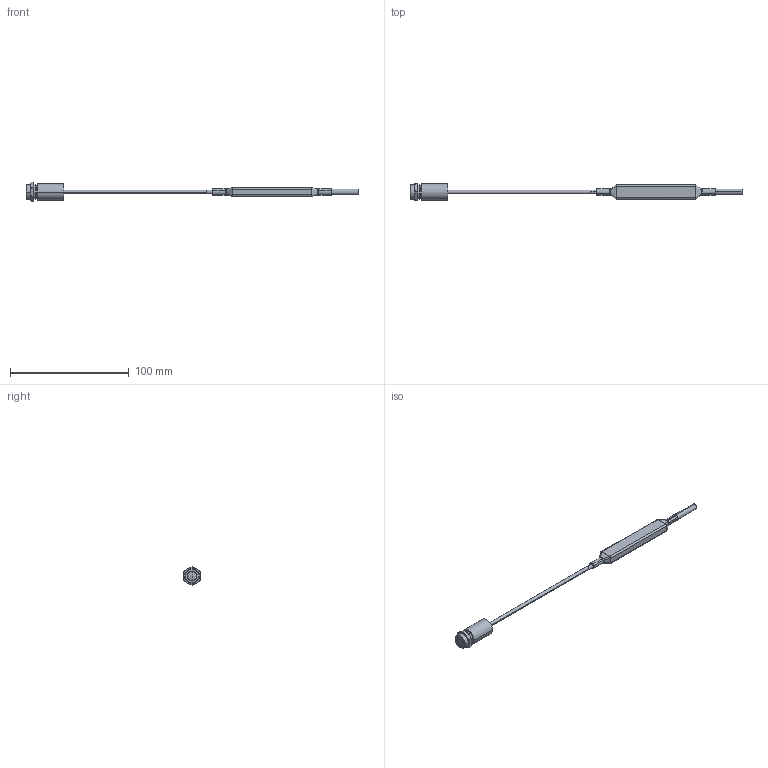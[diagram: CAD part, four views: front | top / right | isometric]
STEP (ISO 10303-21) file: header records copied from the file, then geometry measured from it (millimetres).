
FILE_DESCRIPTION((''),'2;1');
FILE_NAME('0000801676','2025-03-06T10:22:24',('11000913'),(''),'CREO PARAMETRIC BY PTC INC, 2022281','CREO PARAMETRIC BY PTC INC, 2022281','');
FILE_SCHEMA(('AUTOMOTIVE_DESIGN { 1 0 10303 214 1 1 1 1 }'));
Products named in the file (1): 0000801676
Bounding box: 279.85 x 14 x 16.17 mm (x, y, z)
Volume: 12769.4 mm3; surface area: 6795 mm2
Topology: 1 solids, 4 shells, 126 faces, 279 edges, 171 vertices
Faces by surface type: bspline 38, plane 36, cylinder 34, cone 18
Entity records: 80461 total; most frequent: CARTESIAN_POINT 55864, POLYLINE 19152, DIRECTION 576, ORIENTED_EDGE 554, PRESENTATION_STYLE_ASSIGNMENT 406, CURVE_STYLE 289, STYLED_ITEM 284, EDGE_CURVE 277
